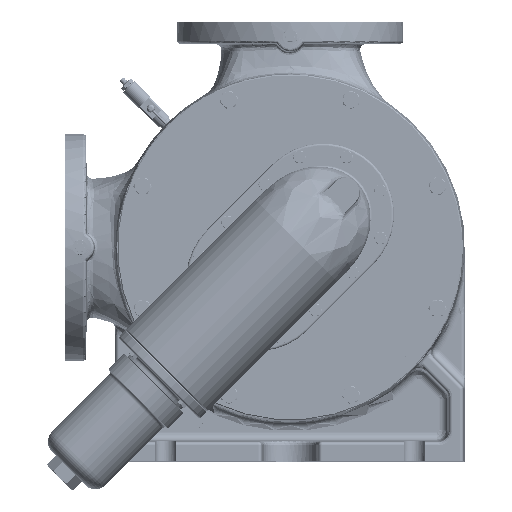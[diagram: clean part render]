
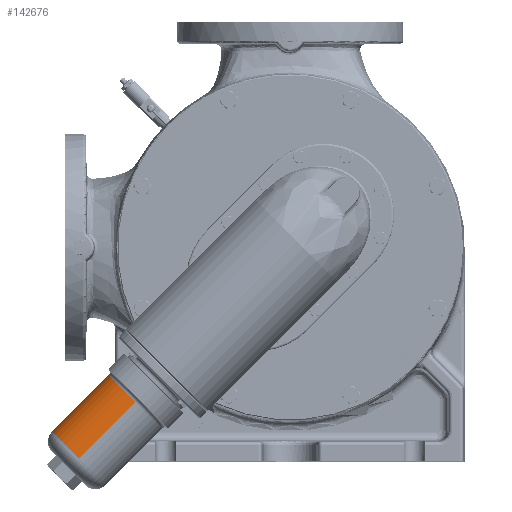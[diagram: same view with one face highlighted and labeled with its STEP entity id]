
A CAD part, top view. The second image highlights one B-rep face of the part: STEP entity #142676.
In plain terms, the highlighted cylindrical face has radius 42.5 mm (diameter 85 mm), a partial arc.
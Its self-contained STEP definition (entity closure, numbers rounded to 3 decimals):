
#142194=DIRECTION('',(-1.,0.,0.));
#142195=VECTOR('',#142194,90.);
#142196=CARTESIAN_POINT('',(-33.,42.5,0.));
#142197=LINE('',#142196,#142195);
#142198=DIRECTION('',(-1.,0.,0.));
#142199=VECTOR('',#142198,90.);
#142200=CARTESIAN_POINT('',(-33.,-42.5,0.));
#142201=LINE('',#142200,#142199);
#142202=CARTESIAN_POINT('',(-33.,0.,0.));
#142203=DIRECTION('',(-1.,0.,0.));
#142204=DIRECTION('',(0.,1.,0.));
#142205=AXIS2_PLACEMENT_3D('',#142202,#142203,#142204);
#142227=CARTESIAN_POINT('',(-123.,0.,0.));
#142228=DIRECTION('',(-1.,0.,0.));
#142229=DIRECTION('',(0.,1.,0.));
#142230=AXIS2_PLACEMENT_3D('',#142227,#142228,#142229);
#142536=CARTESIAN_POINT('',(-33.,42.5,0.));
#142537=CARTESIAN_POINT('',(-123.,42.5,0.));
#142538=VERTEX_POINT('',#142536);
#142539=VERTEX_POINT('',#142537);
#142546=CARTESIAN_POINT('',(-33.,-42.5,0.));
#142547=CARTESIAN_POINT('',(-123.,-42.5,0.));
#142548=VERTEX_POINT('',#142546);
#142549=VERTEX_POINT('',#142547);
#142662=CARTESIAN_POINT('',(-145.95,0.,0.));
#142663=DIRECTION('',(1.,0.,0.));
#142664=DIRECTION('',(0.,-1.,0.));
#142665=AXIS2_PLACEMENT_3D('',#142662,#142663,#142664);
#142666=CYLINDRICAL_SURFACE('',#142665,42.5);
#142668=ORIENTED_EDGE('',*,*,#142667,.T.);
#142670=ORIENTED_EDGE('',*,*,#142669,.T.);
#142672=ORIENTED_EDGE('',*,*,#142671,.F.);
#142673=ORIENTED_EDGE('',*,*,#142654,.F.);
#142674=EDGE_LOOP('',(#142668,#142670,#142672,#142673));
#142675=FACE_OUTER_BOUND('',#142674,.F.);
#142676=ADVANCED_FACE('',(#142675),#142666,.T.);
#142206=CIRCLE('',#142205,42.5);
#142231=CIRCLE('',#142230,42.5);
#142654=EDGE_CURVE('',#142538,#142548,#142206,.T.);
#142667=EDGE_CURVE('',#142538,#142539,#142197,.T.);
#142669=EDGE_CURVE('',#142539,#142549,#142231,.T.);
#142671=EDGE_CURVE('',#142548,#142549,#142201,.T.);
